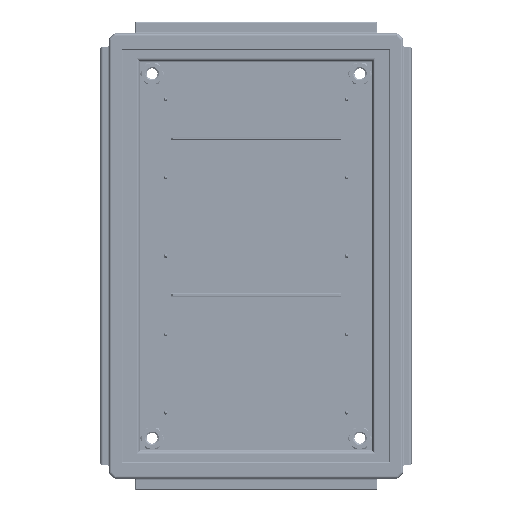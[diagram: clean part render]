
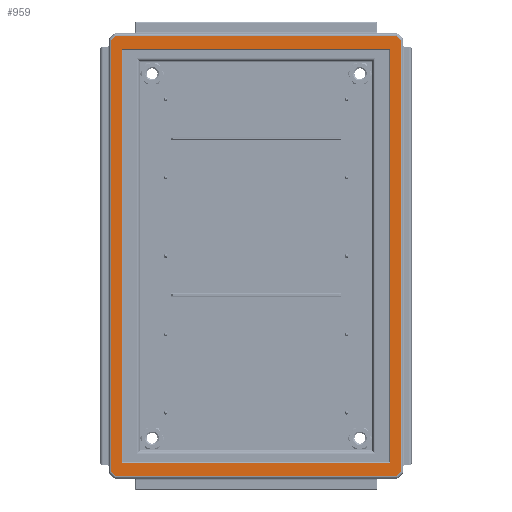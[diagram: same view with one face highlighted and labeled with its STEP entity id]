
A CAD part, front view. The second image highlights one B-rep face of the part: STEP entity #959.
In plain terms, the highlighted planar face has unit normal (0, -1, 0).
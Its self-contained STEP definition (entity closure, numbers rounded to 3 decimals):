
#959=ADVANCED_FACE('',(#28160,#28162),#28164,.T.);
#28160=FACE_BOUND('',#28161,.T.);
#28161=EDGE_LOOP('',(#103529,#103530,#103531,#103532,#103533,#103534,#103535,#103536));
#28162=FACE_BOUND('',#28163,.T.);
#28163=EDGE_LOOP('',(#103537,#103538,#103539,#103540));
#28164=PLANE('',#28165);
#28165=AXIS2_PLACEMENT_3D('',#28166,#28167,#28168);
#28166=CARTESIAN_POINT('',(262.2,0.,-564.9));
#28167=DIRECTION('',(0.,-1.,0.));
#28168=DIRECTION('',(0.,0.,1.));
#103529=ORIENTED_EDGE('',*,*,#147311,.F.);
#103530=ORIENTED_EDGE('',*,*,#147312,.F.);
#103531=ORIENTED_EDGE('',*,*,#147313,.T.);
#103532=ORIENTED_EDGE('',*,*,#147314,.T.);
#103533=ORIENTED_EDGE('',*,*,#147315,.F.);
#103534=ORIENTED_EDGE('',*,*,#147316,.T.);
#103535=ORIENTED_EDGE('',*,*,#147317,.T.);
#103536=ORIENTED_EDGE('',*,*,#147318,.F.);
#103537=ORIENTED_EDGE('',*,*,#147319,.T.);
#103538=ORIENTED_EDGE('',*,*,#147320,.T.);
#103539=ORIENTED_EDGE('',*,*,#147321,.F.);
#103540=ORIENTED_EDGE('',*,*,#147322,.T.);
#147311=EDGE_CURVE('',#169916,#169917,#169918,.T.);
#147312=EDGE_CURVE('',#169919,#169916,#169920,.T.);
#147313=EDGE_CURVE('',#169919,#169921,#169922,.T.);
#147314=EDGE_CURVE('',#169921,#169923,#169924,.T.);
#147315=EDGE_CURVE('',#169925,#169923,#169926,.T.);
#147316=EDGE_CURVE('',#169925,#169927,#169928,.T.);
#147317=EDGE_CURVE('',#169927,#169929,#169930,.T.);
#147318=EDGE_CURVE('',#169917,#169929,#169931,.T.);
#147319=EDGE_CURVE('',#169932,#169933,#169934,.T.);
#147320=EDGE_CURVE('',#169933,#169935,#169936,.T.);
#147321=EDGE_CURVE('',#169937,#169935,#169938,.T.);
#147322=EDGE_CURVE('',#169937,#169932,#169939,.T.);
#169916=VERTEX_POINT('',#209082);
#169917=VERTEX_POINT('',#209083);
#169918=LINE('',#209084,#209085);
#169919=VERTEX_POINT('',#209087);
#169920=LINE('',#209088,#209089);
#169921=VERTEX_POINT('',#209091);
#169922=LINE('',#209092,#209093);
#169923=VERTEX_POINT('',#209095);
#169924=LINE('',#209096,#209097);
#169925=VERTEX_POINT('',#209099);
#169926=LINE('',#209100,#209101);
#169927=VERTEX_POINT('',#209103);
#169928=LINE('',#209104,#209105);
#169929=VERTEX_POINT('',#209107);
#169930=LINE('',#209108,#209109);
#169931=LINE('',#209111,#209112);
#169932=VERTEX_POINT('',#209114);
#169933=VERTEX_POINT('',#209115);
#169934=LINE('',#209116,#209117);
#169935=VERTEX_POINT('',#209119);
#169936=LINE('',#209120,#209121);
#169937=VERTEX_POINT('',#209123);
#169938=LINE('',#209124,#209125);
#169939=LINE('',#209127,#209128);
#209082=CARTESIAN_POINT('',(-33.284,0.,-3.1));
#209083=CARTESIAN_POINT('',(-28.1,0.,-8.284));
#209084=CARTESIAN_POINT('',(-33.284,0.,-3.1));
#209085=VECTOR('',#209086,1.);
#209086=DIRECTION('',(0.707,0.,-0.707));
#209087=CARTESIAN_POINT('',(-391.716,0.,-3.1));
#209088=CARTESIAN_POINT('',(-391.716,0.,-3.1));
#209089=VECTOR('',#209090,1.);
#209090=DIRECTION('',(1.,0.,0.));
#209091=CARTESIAN_POINT('',(-396.9,0.,-8.284));
#209092=CARTESIAN_POINT('',(-391.716,0.,-3.1));
#209093=VECTOR('',#209094,1.);
#209094=DIRECTION('',(-0.707,0.,-0.707));
#209095=CARTESIAN_POINT('',(-396.9,0.,-559.716));
#209096=CARTESIAN_POINT('',(-396.9,0.,-8.284));
#209097=VECTOR('',#209098,1.);
#209098=DIRECTION('',(0.,0.,-1.));
#209099=CARTESIAN_POINT('',(-391.716,0.,-564.9));
#209100=CARTESIAN_POINT('',(-391.716,0.,-564.9));
#209101=VECTOR('',#209102,1.);
#209102=DIRECTION('',(-0.707,0.,0.707));
#209103=CARTESIAN_POINT('',(-33.284,0.,-564.9));
#209104=CARTESIAN_POINT('',(-391.716,0.,-564.9));
#209105=VECTOR('',#209106,1.);
#209106=DIRECTION('',(1.,0.,0.));
#209107=CARTESIAN_POINT('',(-28.1,0.,-559.716));
#209108=CARTESIAN_POINT('',(-33.284,0.,-564.9));
#209109=VECTOR('',#209110,1.);
#209110=DIRECTION('',(0.707,0.,0.707));
#209111=CARTESIAN_POINT('',(-28.1,0.,-8.284));
#209112=VECTOR('',#209113,1.);
#209113=DIRECTION('',(0.,0.,-1.));
#209114=CARTESIAN_POINT('',(-383.591,0.,-19.899));
#209115=CARTESIAN_POINT('',(-41.409,0.,-19.899));
#209116=CARTESIAN_POINT('',(-383.591,0.,-19.899));
#209117=VECTOR('',#209118,1.);
#209118=DIRECTION('',(1.,0.,0.));
#209119=CARTESIAN_POINT('',(-41.409,0.,-548.101));
#209120=CARTESIAN_POINT('',(-41.409,0.,-19.899));
#209121=VECTOR('',#209122,1.);
#209122=DIRECTION('',(0.,0.,-1.));
#209123=CARTESIAN_POINT('',(-383.591,0.,-548.101));
#209124=CARTESIAN_POINT('',(-383.591,0.,-548.101));
#209125=VECTOR('',#209126,1.);
#209126=DIRECTION('',(1.,0.,0.));
#209127=CARTESIAN_POINT('',(-383.591,0.,-548.101));
#209128=VECTOR('',#209129,1.);
#209129=DIRECTION('',(0.,0.,1.));
